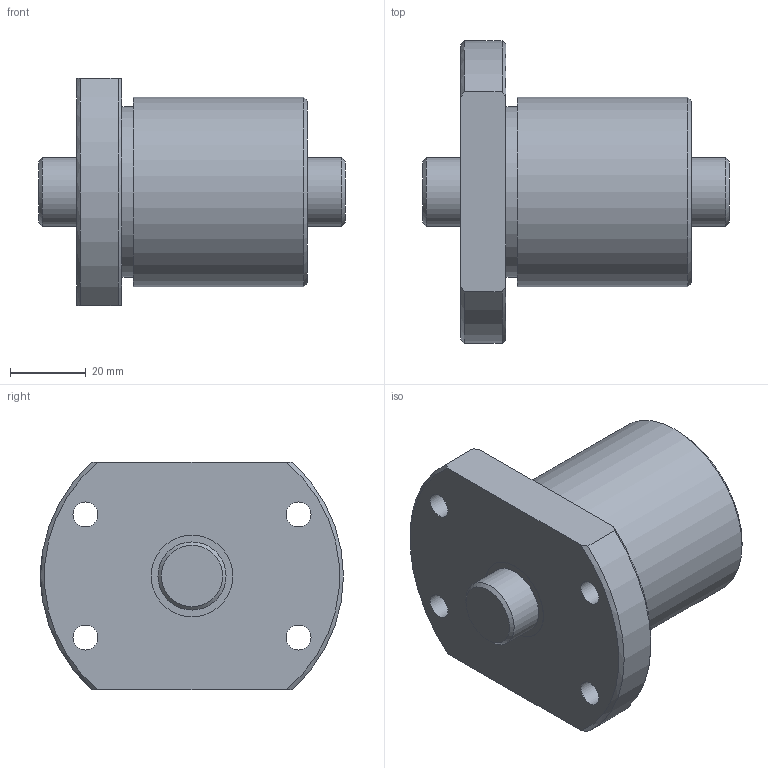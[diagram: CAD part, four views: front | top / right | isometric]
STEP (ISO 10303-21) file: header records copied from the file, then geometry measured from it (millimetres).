
FILE_DESCRIPTION(/* description */ ('STEP AP203'),/* implementation_level */ '2;1');
FILE_NAME(/* name */ 'BTK1808V-3.6ZZ+81LC7T_000',/* time_stamp */ '2025-01-16T07:55:52+01:00',/* author */ ('License CC BY-ND 4.0'),/* organization */ ('CADENAS'),/* preprocessor_version */ 'ST-DEVELOPER v19.3',/* originating_system */ 'PARTsolutions',/* authorisation */ ' ');
FILE_SCHEMA (('CONFIG_CONTROL_DESIGN'));
Length unit declared in the file: millimetre
Products named in the file (3): BTK1808V-3.6ZZ+81LC7T_000; BTK 1808V-3.600 Shaft; BTK 1808V-3.6ZZ Nut
Assembly tree (2 placements, depth 2):
  BTK1808V-3.6ZZ+81LC7T_000
    BTK 1808V-3.600 Shaft
    BTK 1808V-3.6ZZ Nut
Bounding box: 81 x 80 x 60 mm (x, y, z)
Volume: 149293.4 mm3; surface area: 28768 mm2
Topology: 2 solids, 2 shells, 31 faces, 66 edges, 43 vertices
Faces by surface type: cylinder 13, plane 10, cone 8
Full cylindrical faces by diameter (mm): 4.917 x1, 6.6 x4, 18 x2, 21.6 x2, 45 x1, 50 x1
Entity records: 887 total; most frequent: CARTESIAN_POINT 170, DIRECTION 140, ORIENTED_EDGE 100, AXIS2_PLACEMENT_3D 66, EDGE_LOOP 62, FACE_BOUND 62, EDGE_CURVE 50, VERTEX_POINT 42
